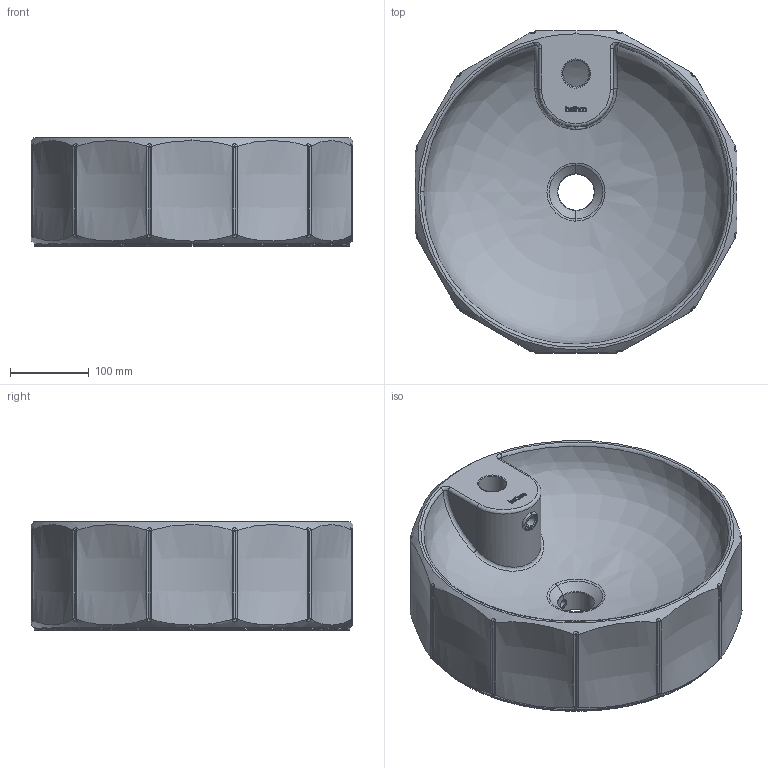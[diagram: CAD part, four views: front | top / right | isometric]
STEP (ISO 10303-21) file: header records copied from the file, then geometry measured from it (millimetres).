
FILE_DESCRIPTION(/* description */ (''),/* implementation_level */ '2;1');
FILE_NAME(/* name */ '4158_CIRCUS',/* time_stamp */ '2022-08-04T10:31:16+02:00',/* author */ (''),/* organization */ (''),/* preprocessor_version */ 'ST-DEVELOPER v16.5',/* originating_system */ '',/* authorisation */ '');
FILE_SCHEMA (('CONFIG_CONTROL_DESIGN'));
Length unit declared in the file: millimetre
Products named in the file (1): Document
Bounding box: 408.05 x 408.05 x 138 mm (x, y, z)
Volume: 4820468.9 mm3; surface area: 627884.7 mm2
Topology: 8 solids, 8 shells, 225 faces, 563 edges, 354 vertices
Faces by surface type: bspline 158, plane 55, cylinder 12
Full cylindrical faces by diameter (mm): 10 x1, 19 x1, 35 x1
Entity records: 30096 total; most frequent: CARTESIAN_POINT 26719, ORIENTED_EDGE 1126, EDGE_CURVE 563, VERTEX_POINT 354, B_SPLINE_CURVE_WITH_KNOTS 299, EDGE_LOOP 237, ADVANCED_FACE 225, FACE_OUTER_BOUND 225
